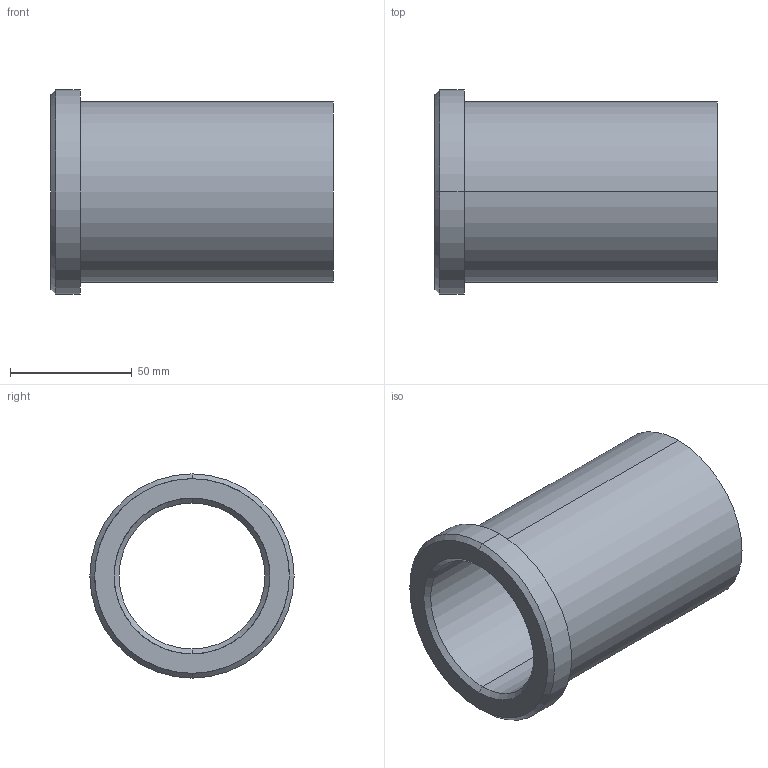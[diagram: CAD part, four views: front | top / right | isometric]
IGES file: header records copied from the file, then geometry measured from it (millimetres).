
Start section: START RECORD GO HERE.
Global section: file name: 353-60X116.igs; native system: DASSAULT SYSTEMES CATIA V5 R20 - www.3ds.com; preprocessor: CATIA Version 5 Release 20 ; author: Utente; organization: NB04-ASUS; date: 20210514.195842; units: millimetre
Bounding box: 116 x 84 x 84 mm (x, y, z)
Surface area: 53869.9 mm2 (no closed solid volume)
Topology: 0 solids, 0 shells, 15 faces, 96 edges, 96 vertices
Faces by surface type: revolution 12, plane 3
